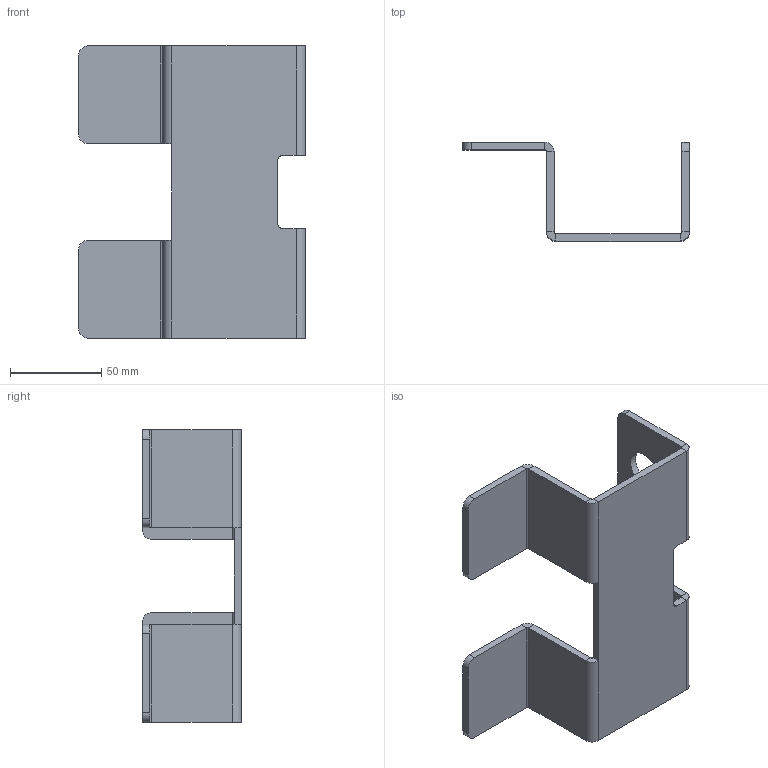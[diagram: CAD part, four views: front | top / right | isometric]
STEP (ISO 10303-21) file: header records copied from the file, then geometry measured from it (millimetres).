
FILE_DESCRIPTION (( 'STEP AP203' ), '1' );
FILE_NAME ('900.504.040.STEP', '2018-03-09T13:11:28', ( '' ), ( '' ), 'SwSTEP 2.0', 'SolidWorks 2016', '' );
FILE_SCHEMA (( 'CONFIG_CONTROL_DESIGN' ));
Length unit declared in the file: millimetre
Products named in the file (1): 900.504.040
Bounding box: 124 x 54 x 160 mm (x, y, z)
Volume: 107026.3 mm3; surface area: 58289.3 mm2
Topology: 1 solids, 1 shells, 74 faces, 168 edges, 96 vertices
Faces by surface type: plane 48, cylinder 26
Entity records: 2105 total; most frequent: DIRECTION 370, CARTESIAN_POINT 339, ORIENTED_EDGE 336, EDGE_CURVE 168, AXIS2_PLACEMENT_3D 127, LINE 116, VECTOR 116, VERTEX_POINT 96
